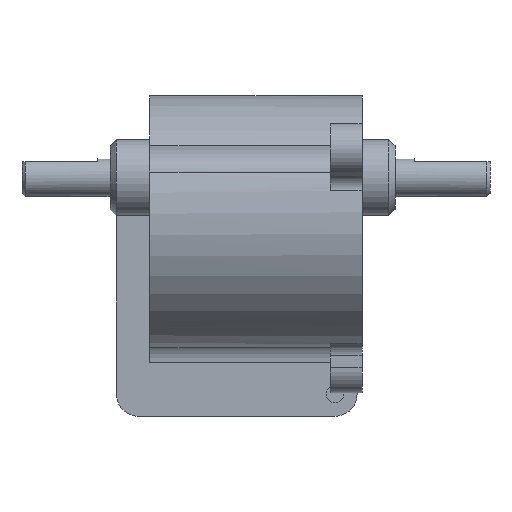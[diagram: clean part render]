
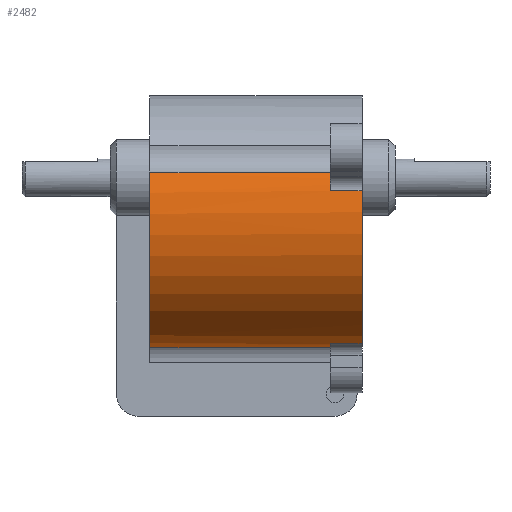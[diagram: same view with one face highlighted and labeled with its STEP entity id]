
A CAD part, left-side view. The second image highlights one B-rep face of the part: STEP entity #2482.
In plain terms, the highlighted cylindrical face has radius 20 mm (diameter 40 mm), a partial arc.
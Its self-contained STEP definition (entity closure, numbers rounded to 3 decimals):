
#158=CYLINDRICAL_SURFACE('',#2745,20.);
#231=FACE_OUTER_BOUND('',#387,.T.);
#387=EDGE_LOOP('',(#1722,#1723,#1724,#1725,#1726,#1727,#1728,#1729));
#591=CIRCLE('',#2746,20.);
#592=CIRCLE('',#2747,20.);
#593=CIRCLE('',#2748,20.);
#594=CIRCLE('',#2749,20.);
#757=LINE('',#3952,#929);
#759=LINE('',#3960,#931);
#760=LINE('',#3964,#932);
#761=LINE('',#3968,#933);
#929=VECTOR('',#3111,10.);
#931=VECTOR('',#3119,10.);
#932=VECTOR('',#3122,10.);
#933=VECTOR('',#3125,10.);
#1112=VERTEX_POINT('',#3949);
#1113=VERTEX_POINT('',#3951);
#1115=VERTEX_POINT('',#3957);
#1116=VERTEX_POINT('',#3959);
#1117=VERTEX_POINT('',#3961);
#1118=VERTEX_POINT('',#3963);
#1119=VERTEX_POINT('',#3965);
#1120=VERTEX_POINT('',#3967);
#1353=EDGE_CURVE('',#1112,#1113,#757,.T.);
#1356=EDGE_CURVE('',#1112,#1115,#591,.T.);
#1357=EDGE_CURVE('',#1115,#1116,#759,.T.);
#1358=EDGE_CURVE('',#1116,#1117,#592,.T.);
#1359=EDGE_CURVE('',#1117,#1118,#760,.T.);
#1360=EDGE_CURVE('',#1118,#1119,#593,.T.);
#1361=EDGE_CURVE('',#1120,#1119,#761,.T.);
#1362=EDGE_CURVE('',#1113,#1120,#594,.T.);
#1722=ORIENTED_EDGE('',*,*,#1353,.F.);
#1723=ORIENTED_EDGE('',*,*,#1356,.T.);
#1724=ORIENTED_EDGE('',*,*,#1357,.T.);
#1725=ORIENTED_EDGE('',*,*,#1358,.T.);
#1726=ORIENTED_EDGE('',*,*,#1359,.T.);
#1727=ORIENTED_EDGE('',*,*,#1360,.T.);
#1728=ORIENTED_EDGE('',*,*,#1361,.F.);
#1729=ORIENTED_EDGE('',*,*,#1362,.F.);
#2482=ADVANCED_FACE('',(#231),#158,.T.);
#2745=AXIS2_PLACEMENT_3D('',#3956,#3115,#3116);
#2746=AXIS2_PLACEMENT_3D('',#3958,#3117,#3118);
#2747=AXIS2_PLACEMENT_3D('',#3962,#3120,#3121);
#2748=AXIS2_PLACEMENT_3D('',#3966,#3123,#3124);
#2749=AXIS2_PLACEMENT_3D('',#3969,#3126,#3127);
#3111=DIRECTION('',(0.,-1.,0.));
#3115=DIRECTION('center_axis',(0.,1.,0.));
#3116=DIRECTION('ref_axis',(-0.866,0.,-0.5));
#3117=DIRECTION('center_axis',(0.,1.,0.));
#3118=DIRECTION('ref_axis',(1.,0.,0.));
#3119=DIRECTION('',(0.,1.,0.));
#3120=DIRECTION('center_axis',(0.,-1.,0.));
#3121=DIRECTION('ref_axis',(1.,0.,0.));
#3122=DIRECTION('',(0.,-1.,0.));
#3123=DIRECTION('center_axis',(0.,1.,0.));
#3124=DIRECTION('ref_axis',(1.,0.,0.));
#3125=DIRECTION('',(0.,1.,0.));
#3126=DIRECTION('center_axis',(0.,-1.,0.));
#3127=DIRECTION('ref_axis',(1.,0.,0.));
#3949=CARTESIAN_POINT('',(-19.391,5.,4.897));
#3951=CARTESIAN_POINT('',(-19.391,0.,4.897));
#3952=CARTESIAN_POINT('',(-19.391,0.,4.897));
#3956=CARTESIAN_POINT('Origin',(0.,0.,0.));
#3957=CARTESIAN_POINT('',(-18.42,5.,7.791));
#3958=CARTESIAN_POINT('Origin',(0.,5.,0.));
#3959=CARTESIAN_POINT('',(-18.42,33.5,7.791));
#3960=CARTESIAN_POINT('',(-18.42,33.5,7.791));
#3961=CARTESIAN_POINT('',(-2.462,33.5,-19.848));
#3962=CARTESIAN_POINT('Origin',(0.,33.5,0.));
#3963=CARTESIAN_POINT('',(-2.462,5.,-19.848));
#3964=CARTESIAN_POINT('',(-2.462,33.5,-19.848));
#3965=CARTESIAN_POINT('',(-5.455,5.,-19.242));
#3966=CARTESIAN_POINT('Origin',(0.,5.,0.));
#3967=CARTESIAN_POINT('',(-5.455,0.,-19.242));
#3968=CARTESIAN_POINT('',(-5.455,0.,-19.242));
#3969=CARTESIAN_POINT('Origin',(0.,0.,0.));
